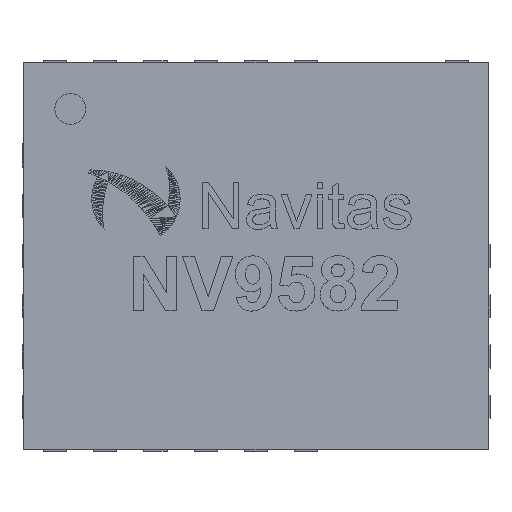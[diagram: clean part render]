
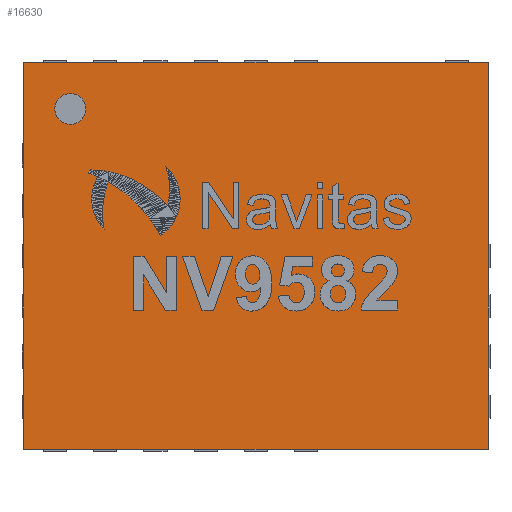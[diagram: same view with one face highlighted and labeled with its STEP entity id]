
A CAD part, top view. The second image highlights one B-rep face of the part: STEP entity #16630.
In plain terms, the highlighted planar face has unit normal (0, 0, 1).
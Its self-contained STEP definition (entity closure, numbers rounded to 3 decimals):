
#697=FACE_OUTER_BOUND('',#1971,.T.);
#1971=EDGE_LOOP('',(#10794,#10795,#10796,#10797));
#3252=LINE('',#23245,#5233);
#3256=LINE('',#23252,#5237);
#3259=LINE('',#23259,#5240);
#3261=LINE('',#23262,#5242);
#5233=VECTOR('',#19050,10.);
#5237=VECTOR('',#19056,10.);
#5240=VECTOR('',#19063,10.);
#5242=VECTOR('',#19067,10.);
#7214=VERTEX_POINT('',#23242);
#7215=VERTEX_POINT('',#23244);
#7217=VERTEX_POINT('',#23250);
#7219=VERTEX_POINT('',#23258);
#8385=EDGE_CURVE('',#7214,#7215,#3252,.T.);
#8389=EDGE_CURVE('',#7217,#7214,#3256,.T.);
#8392=EDGE_CURVE('',#7215,#7219,#3259,.T.);
#8394=EDGE_CURVE('',#7219,#7217,#3261,.T.);
#10794=ORIENTED_EDGE('',*,*,#8394,.F.);
#10795=ORIENTED_EDGE('',*,*,#8392,.F.);
#10796=ORIENTED_EDGE('',*,*,#8385,.F.);
#10797=ORIENTED_EDGE('',*,*,#8389,.F.);
#15561=PLANE('',#17944);
#16630=ADVANCED_FACE('',(#697),#15561,.F.);
#17944=AXIS2_PLACEMENT_3D('',#23263,#19068,#19069);
#19050=DIRECTION('',(0.,1.,0.));
#19056=DIRECTION('',(-1.,0.,0.));
#19063=DIRECTION('',(1.,0.,0.));
#19067=DIRECTION('',(0.,-1.,0.));
#19068=DIRECTION('center_axis',(0.,0.,-1.));
#19069=DIRECTION('ref_axis',(-1.,0.,0.));
#23242=CARTESIAN_POINT('',(-6.,0.,1.7));
#23244=CARTESIAN_POINT('',(-6.,5.,1.7));
#23245=CARTESIAN_POINT('',(-6.,0.,1.7));
#23250=CARTESIAN_POINT('',(0.,0.,1.7));
#23252=CARTESIAN_POINT('',(0.,0.,1.7));
#23258=CARTESIAN_POINT('',(0.,5.,1.7));
#23259=CARTESIAN_POINT('',(-6.,5.,1.7));
#23262=CARTESIAN_POINT('',(0.,5.,1.7));
#23263=CARTESIAN_POINT('Origin',(-3.,2.5,1.7));
